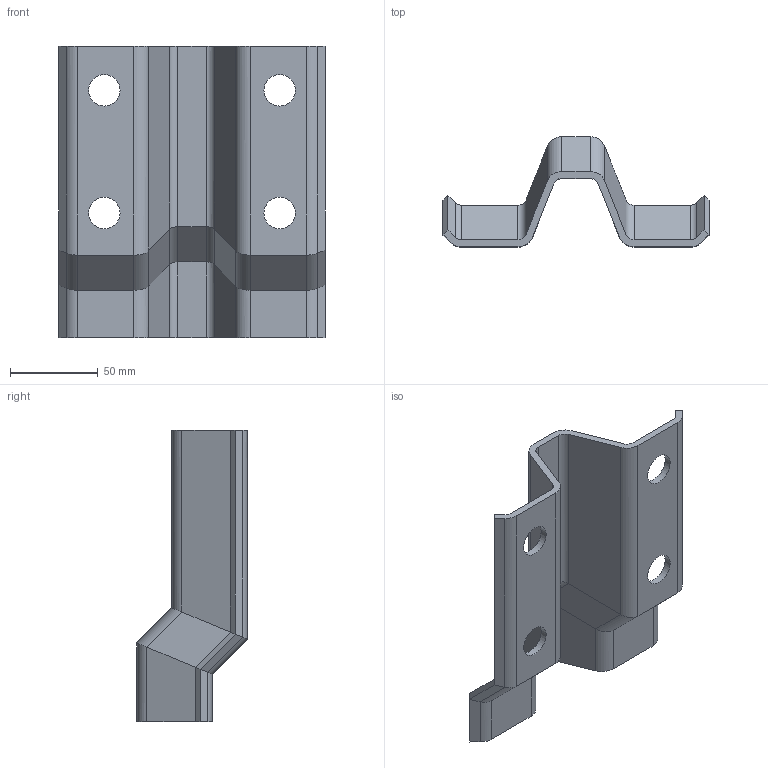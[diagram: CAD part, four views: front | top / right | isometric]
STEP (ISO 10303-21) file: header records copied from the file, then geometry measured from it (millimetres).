
FILE_DESCRIPTION(/* description */ (''),/* implementation_level */ '2;1');
FILE_NAME(/* name */ 'C200.stp',/* time_stamp */ '2023-07-03T10:22:41+02:00',/* author */ ('woriedl'),/* organization */ (''),/* preprocessor_version */ 'ST-DEVELOPER v19.2',/* originating_system */ 'AutoCAD Mechanical',/* authorisation */ '');
FILE_SCHEMA (('AUTOMOTIVE_DESIGN { 1 0 10303 214 3 1 1 }'));
Length unit declared in the file: centimetre
Products named in the file (1): Product
Bounding box: 151.72 x 63 x 166 mm (x, y, z)
Volume: 136627.6 mm3; surface area: 72227.5 mm2
Topology: 1 solids, 1 shells, 90 faces, 208 edges, 120 vertices
Faces by surface type: plane 50, cylinder 40
Full cylindrical faces by diameter (mm): 18 x4
Entity records: 2519 total; most frequent: DIRECTION 446, CARTESIAN_POINT 419, ORIENTED_EDGE 416, EDGE_CURVE 208, LINE 152, VECTOR 152, AXIS2_PLACEMENT_3D 147, VERTEX_POINT 120
